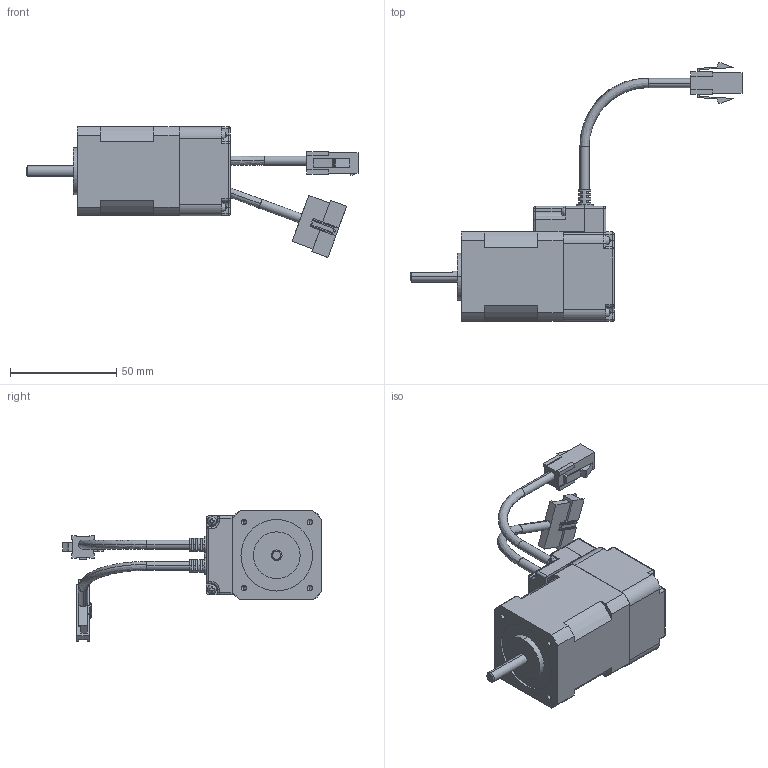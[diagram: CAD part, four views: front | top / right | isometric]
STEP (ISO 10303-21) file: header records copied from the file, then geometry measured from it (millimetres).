
FILE_DESCRIPTION (( 'STEP AP203' ), '1' );
FILE_NAME ('M11-MO-042-03-R00.STEP', '2014-12-21T05:04:21', ( 'Registered User' ), ( 'Microsoft Corporation' ), 'SwSTEP 2.0', 'SolidWorks 2013', '' );
FILE_SCHEMA (( 'CONFIG_CONTROL_DESIGN' ));
Length unit declared in the file: millimetre
Products named in the file (10): EzM-42S Assembly_091218; M11-MO-042-03-R00(EzM-42L-01)_湀_; M11-MO-042-03-R00; MainEZSV_42_Cable_Cover-1-1; MainEZSV_42_Encoder_Cover-1-1; MainEncoder_Mounting_Plate-1-6; MainM3-screw-1-5; Mainconnector_e-1-9; Maincable-1-6; MainEzM-42S-assembly-1
Assembly tree (14 placements, depth 4):
  M11-MO-042-03-R00
    M11-MO-042-03-R00(EzM-42L-01)_湀_
    EzM-42S Assembly_091218
      MainEzM-42S-assembly-1
        MainEZSV_42_Cable_Cover-1-1
        MainEZSV_42_Encoder_Cover-1-1
        MainEncoder_Mounting_Plate-1-6
        MainM3-screw-1-5  x6
        Mainconnector_e-1-9
        Maincable-1-6
Bounding box: 156 x 121.61 x 61.49 mm (x, y, z)
Volume: 103017.9 mm3; surface area: 39697 mm2
Topology: 12 solids, 12 shells, 788 faces, 2056 edges, 1318 vertices
Faces by surface type: plane 433, cylinder 299, bspline 34, cone 22
Entity records: 22429 total; most frequent: CARTESIAN_POINT 4278, DIRECTION 3654, ORIENTED_EDGE 3468, EDGE_CURVE 1734, AXIS2_PLACEMENT_3D 1280, VERTEX_POINT 1128, VECTOR 1094, LINE 1094
